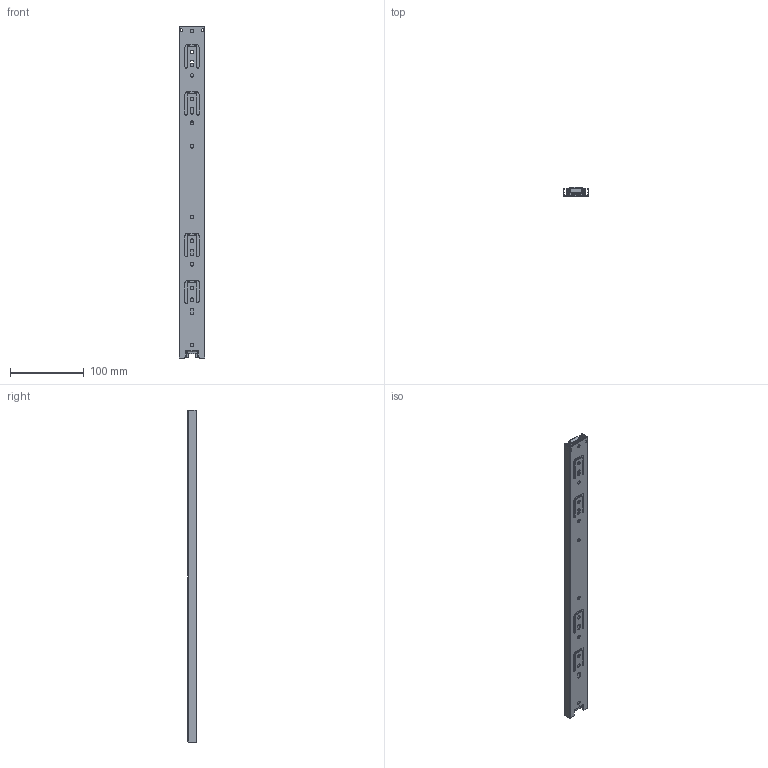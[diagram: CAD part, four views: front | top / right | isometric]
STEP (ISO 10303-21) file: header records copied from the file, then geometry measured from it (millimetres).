
FILE_DESCRIPTION(/* description */ (''),/* implementation_level */ '2;1');
FILE_NAME(/* name */ 'C:\Users\dmitruk\Documents\WORK\\X2\041D0410041F042004100412041B042F042E042904180415\X0\\Шариковые\h35 L-450 AKS LIGHT.stp',/* time_stamp */ '2020-07-27T15:04:23+03:00',/* author */ ('dmitruk'),/* organization */ (''),/* preprocessor_version */ 'ST-DEVELOPER v16.5',/* originating_system */ 'Autodesk Inventor 2017',/* authorisation */ '');
FILE_SCHEMA (('AUTOMOTIVE_DESIGN { 1 0 10303 214 3 1 1 }'));
Length unit declared in the file: millimetre
Products named in the file (5): h35 L-450 AKS LIGHT; h35 L-450 AKS_11; h35 L-450 AKS_12; h35 L-450_13; h35 L-450 AKS_2
Assembly tree (4 placements, depth 2):
  h35 L-450 AKS LIGHT
    h35 L-450 AKS_11
    h35 L-450 AKS_12
    h35 L-450_13
    h35 L-450 AKS_2
Bounding box: 35 x 12.02 x 450 mm (x, y, z)
Volume: 61421.4 mm3; surface area: 124167.4 mm2
Topology: 4 solids, 4 shells, 746 faces, 2191 edges, 1496 vertices
Faces by surface type: plane 415, cylinder 275, sphere 56
Full cylindrical faces by diameter (mm): 4.5 x4, 4.9 x11
Entity records: 25447 total; most frequent: CARTESIAN_POINT 4703, DIRECTION 4361, ORIENTED_EDGE 4258, EDGE_CURVE 2129, AXIS2_PLACEMENT_3D 1463, LINE 1435, VECTOR 1435, VERTEX_POINT 1405
